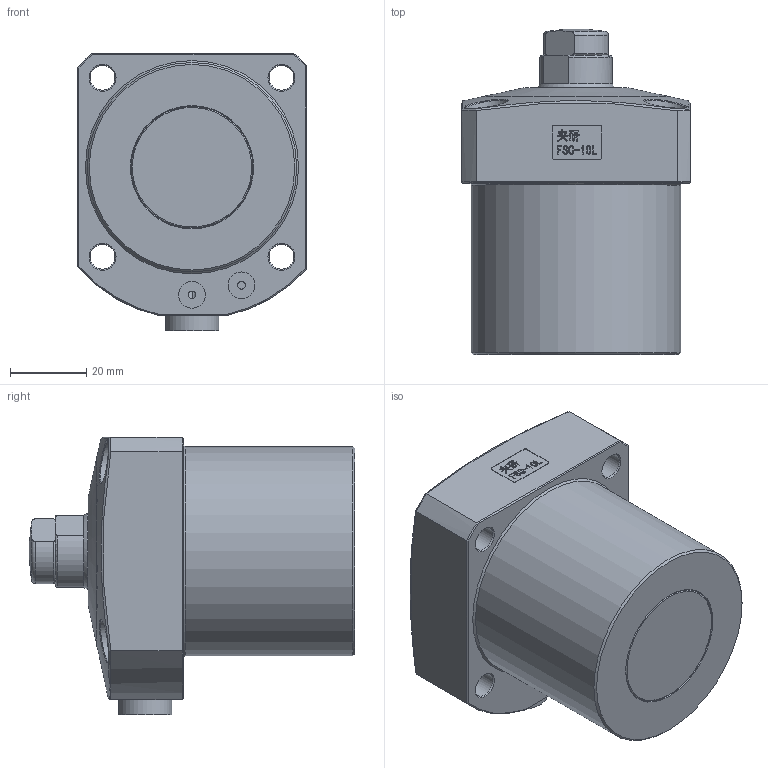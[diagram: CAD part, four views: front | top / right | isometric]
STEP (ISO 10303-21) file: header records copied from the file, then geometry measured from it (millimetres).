
FILE_DESCRIPTION(/* description */ (''),/* implementation_level */ '2;1');
FILE_NAME(/* name */ 'FSC-10L.stp',/* time_stamp */ '2022-05-04T13:56:28+08:00',/* author */ (''),/* organization */ (''),/* preprocessor_version */ 'ST-DEVELOPER v16.7',/* originating_system */ 'SIEMENS PLM Software NX 12.0',/* authorisation */ '');
FILE_SCHEMA (('AUTOMOTIVE_DESIGN { 1 0 10303 214 3 1 1 1 }'));
Length unit declared in the file: millimetre
Products named in the file (1): FSC-055BL
Bounding box: 60 x 85.41 x 73 mm (x, y, z)
Volume: 151721.6 mm3; surface area: 47821.1 mm2
Topology: 7 solids, 7 shells, 378 faces, 905 edges, 576 vertices
Faces by surface type: plane 165, extrusion 60, cylinder 57, cone 54, torus 27, bspline 14, sphere 1
Full cylindrical faces by diameter (mm): 2 x2, 6 x2, 6.5 x4, 7 x2, 8 x9, 8.4 x1, 8.6 x1, 9 x1, 10 x1, 10.5 x1, 11 x4, 12 x1, 14 x1, 20 x2, 20.005 x2, 23.989 x1, 27 x1, 32 x2, 43 x1, 46 x1, 46.4 x1, 48.5 x2, 50.005 x1, 55 x1
Entity records: 19368 total; most frequent: CARTESIAN_POINT 10290, ORIENTED_EDGE 1516, DIRECTION 1424, EDGE_CURVE 758, EDGE_LOOP 555, VERTEX_POINT 552, AXIS2_PLACEMENT_3D 490, VECTOR 444
